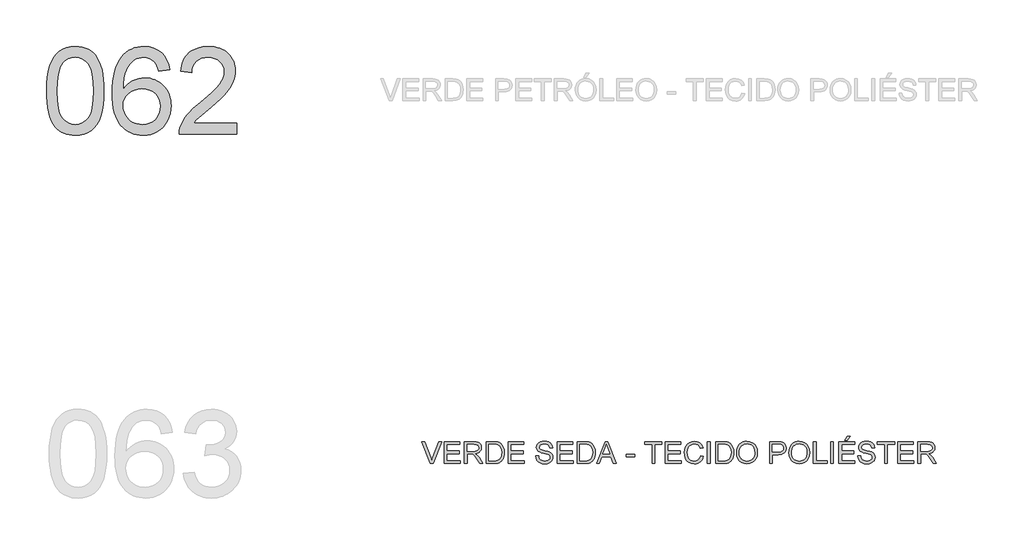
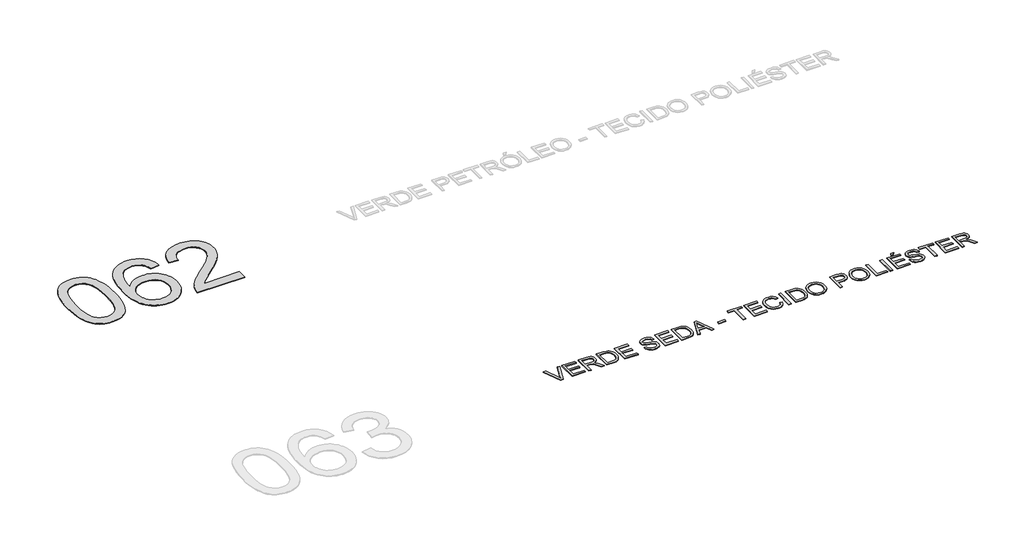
# One storey, part 14 of 35: 2 proxies.
"""IFC4 building model written with IfcOpenShell, lengths in millimetres."""

import ifcopenshell
import ifcopenshell.guid

model = None  # the IFC model being written
_history = None  # IfcOwnerHistory: only IFC2X3 demands one
_inside = {}  # id of a spatial element -> (the spatial element, [elements in it])
_under = {}  # id of a project, library or spatial element -> (it, [spatial elements below it])
_declared = {}  # id of a project -> (the project, [libraries it declares])
_typed = {}  # id of a type object -> (the type object, [elements of that type])
_made_of = {}  # id of a material, layer set ... -> (it, [elements and type objects made of it])


def new_model(schema):
    """Start an empty IFC model of exactly this schema.

    Asked for "IFC4X3", IfcOpenShell would pick the latest addendum, in which some entities
    have other attributes; the version numbers below select the first issue.
    IFC2X3 requires an IfcOwnerHistory on every rooted entity: one is made here for all.
    """
    global model, _history
    if schema == "IFC4X3":
        model = ifcopenshell.file(schema_version=(4, 3, 0, 0))
    else:
        model = ifcopenshell.file(schema=schema)
    _inside.clear()
    _under.clear()
    _declared.clear()
    _typed.clear()
    _made_of.clear()
    _history = None
    if model.schema == "IFC2X3":
        org = make("IfcOrganization", Name="unknown")
        user = make(
            "IfcPersonAndOrganization",
            ThePerson=make("IfcPerson", FamilyName="unknown"),
            TheOrganization=org,
        )
        app = make(
            "IfcApplication",
            ApplicationDeveloper=org,
            Version="unknown",
            ApplicationFullName="unknown",
            ApplicationIdentifier="unknown",
        )
        _history = make(
            "IfcOwnerHistory",
            OwningUser=user,
            OwningApplication=app,
            ChangeAction="ADDED",
            CreationDate=0,
        )
    return model


def make(cls, **values):
    """One entity of the class cls with the attributes given. An attribute that is None is left unset."""
    return model.create_entity(
        cls, **{name: value for name, value in values.items() if value is not None}
    )


def rooted(cls, **values):
    """An entity with a GlobalId (a new one), such as an element, a storey or a relation."""
    return make(cls, GlobalId=ifcopenshell.guid.new(), OwnerHistory=_history, **values)


def si_unit(unit_type, name, prefix=None):
    """IfcSIUnit, for example si_unit("LENGTHUNIT", "METRE", prefix="MILLI")."""
    return make("IfcSIUnit", UnitType=unit_type, Prefix=prefix, Name=name)


def assignment(units):
    """IfcUnitAssignment: the units of a project."""
    return None if units is None else make("IfcUnitAssignment", Units=units)


def point(xyz):
    """IfcCartesianPoint."""
    return None if xyz is None else make("IfcCartesianPoint", Coordinates=xyz)


def direction(xyz):
    """IfcDirection."""
    return None if xyz is None else make("IfcDirection", DirectionRatios=xyz)


def frame(location, z_axis=None, x_axis=None):
    """IfcAxis2Placement3D, a coordinate frame: its origin and axes. An axis left out is left unset."""
    return make(
        "IfcAxis2Placement3D",
        Location=point(location),
        Axis=direction(z_axis),
        RefDirection=direction(x_axis),
    )


def origin():
    """The frame at (0, 0, 0) with its axes left unset."""
    return frame((0.0, 0.0, 0.0))


def origin_with_axes():
    """The frame at (0, 0, 0) with the z axis (0, 0, 1) and the x axis (1, 0, 0) written out."""
    return frame((0.0, 0.0, 0.0), z_axis=(0.0, 0.0, 1.0), x_axis=(1.0, 0.0, 0.0))


def place(relative_to, where):
    """IfcLocalPlacement: puts the frame where relative to a parent placement (None: the world)."""
    return make(
        "IfcLocalPlacement", PlacementRelTo=relative_to, RelativePlacement=where
    )


def context(
    kind, dimensions, precision=None, world=None, true_north=None, identifier=None
):
    """IfcGeometricRepresentationContext, for example the 3D "Model" context."""
    return make(
        "IfcGeometricRepresentationContext",
        ContextIdentifier=identifier,
        ContextType=kind,
        CoordinateSpaceDimension=dimensions,
        Precision=precision,
        WorldCoordinateSystem=world,
        TrueNorth=true_north,
    )


def project(units=None, contexts=None):
    """IfcProject with its units and contexts."""
    return rooted(
        "IfcProject",
        Name="project",
        RepresentationContexts=contexts,
        UnitsInContext=assignment(units),
    )


def spatial(cls, under=None, at=None, **own):
    """A site, building, storey or space (cls), placed at a placement, below another one or the project."""
    s = rooted(cls, ObjectPlacement=at, **own)
    if under is not None:
        _under.setdefault(under.id(), (under, []))[1].append(s)
    return s


def polyline(points):
    """IfcPolyline through the points."""
    return make("IfcPolyline", Points=[point(p) for p in points])


def outline(outer, holes=None, kind="AREA"):
    """IfcArbitraryClosedProfileDef: a profile drawn as a closed curve; with holes, ...WithVoids."""
    if holes is None:
        return make("IfcArbitraryClosedProfileDef", ProfileType=kind, OuterCurve=outer)
    return make(
        "IfcArbitraryProfileDefWithVoids",
        ProfileType=kind,
        OuterCurve=outer,
        InnerCurves=holes,
    )


def extrude(swept, where, along, depth):
    """IfcExtrudedAreaSolid: the profile swept, set in the frame where, extruded along a direction by depth."""
    return make(
        "IfcExtrudedAreaSolid",
        SweptArea=swept,
        Position=where,
        ExtrudedDirection=direction(along),
        Depth=depth,
    )


def shape(context_of_items, identifier, shape_type, items):
    """IfcShapeRepresentation: the items that make up one representation, for example the "Body"."""
    return make(
        "IfcShapeRepresentation",
        ContextOfItems=context_of_items,
        RepresentationIdentifier=identifier,
        RepresentationType=shape_type,
        Items=items,
    )


def made_of(thing, what):
    """Note that an element or type object is made of a material, layer set ...; save() writes the relation."""
    if what is not None:
        _made_of.setdefault(what.id(), (what, []))[1].append(thing)
    return thing


def element(
    cls,
    number,
    at=None,
    inside=None,
    cuts=None,
    type_object=None,
    material=None,
    context=None,
    identifier="Body",
    shape_type=None,
    held_by="IfcProductDefinitionShape",
    body=None,
    shapes=None,
    **own,
):
    """One element of the class cls, such as IfcWall. Its Tag is "e" and its number.

    at: its placement. inside: the storey or other place that contains it. cuts: it is an
    opening in that element (IfcRelVoidsElement). A single representation is given by context,
    identifier, shape_type and body (its items); several are given by shapes. held_by: the class
    of the entity that holds the representations. save() writes the other relations.
    """
    e = rooted(cls, Tag="e%d" % number, ObjectPlacement=at, **own)
    if body is not None:
        shapes = [shape(context, identifier, shape_type, body)]
    if shapes is not None:
        e.Representation = make(held_by, Representations=shapes)
    if inside is not None:
        _inside.setdefault(inside.id(), (inside, []))[1].append(e)
    if cuts is not None:
        rooted(
            "IfcRelVoidsElement", RelatingBuildingElement=cuts, RelatedOpeningElement=e
        )
    if type_object is not None:
        _typed.setdefault(type_object.id(), (type_object, []))[1].append(e)
    return made_of(e, material)


def aggregate(whole, parts):
    """IfcRelAggregates: a whole, such as a stair, and the parts it consists of."""
    return rooted("IfcRelAggregates", RelatingObject=whole, RelatedObjects=parts)


def save(model, path):
    """Write the relations noted so far, then the file.

    IfcRelAggregates (storeys below a building ...), IfcRelContainedInSpatialStructure (elements
    in a storey), IfcRelDefinesByType, IfcRelAssociatesMaterial and IfcRelDeclares: one each for
    every whole, place, type object, material and project.
    """
    for whole, parts in _under.values():
        aggregate(whole, parts)
    for where, things in _inside.values():
        rooted(
            "IfcRelContainedInSpatialStructure",
            RelatedElements=things,
            RelatingStructure=where,
        )
    for kind, things in _typed.values():
        rooted("IfcRelDefinesByType", RelatedObjects=things, RelatingType=kind)
    for what, things in _made_of.values():
        rooted("IfcRelAssociatesMaterial", RelatedObjects=things, RelatingMaterial=what)
    for by, libraries in _declared.values():
        rooted("IfcRelDeclares", RelatingContext=by, RelatedDefinitions=libraries)
    model.write(path)


model = new_model("IFC4")

# Units and contexts
model_context = context("Model", 3, world=origin())
ifc_project = project(units=[si_unit("LENGTHUNIT", "METRE", prefix="MILLI")], contexts=[model_context])

# Site, building, storey
site = spatial("IfcSite", under=ifc_project)
building = spatial("IfcBuilding", under=site)
storey = spatial("IfcBuildingStorey", under=building, Name="Marelli - Linha YOU - Planta Baixa", Elevation=0.0)

# Proxies
placement = place(None, origin())
element("IfcBuildingElementProxy", 1, Name="1200mm Arial", ObjectType="1200mm Arial", at=placement, inside=storey, context=model_context, shape_type="SweptSolid", body=[
    extrude(outline(polyline([(-25312.9802863, -69895.792664), (-25310.2119743, -69794.4319773), (-25301.9070382, -69702.8385576), (-25288.0654782, -69621.0124048), (-25268.6872941, -69548.953519), (-25243.8552594, -69486.073289), (-25213.6521476, -69431.7831035), (-25178.0779586, -69386.0829627), (-25137.1326926, -69348.9728664), (-25090.6783936, -69320.2596767), (-25038.5771061, -69299.7502555), (-24980.8288299, -69287.4446027), (-24917.4335651, -69283.3427185), (-24869.7928467, -69285.7707396), (-24824.5801495, -69293.0548031), (-24781.7954734, -69305.194909), (-24741.4388186, -69322.1910572), (-24704.4850722, -69343.7581391), (-24671.9091215, -69369.6110463), (-24643.7109665, -69399.7497788), (-24619.8906074, -69434.1743365), (-24599.2524274, -69472.7467637), (-24580.6008103, -69515.3291046), (-24549.2572643, -69612.5235278), (-24537.2827053, -69669.6831928), (-24528.729449, -69735.9479371), (-24523.5974951, -69811.3177609), (-24521.8868438, -69895.792664), (-24524.6275647, -69996.5095573), (-24532.8497273, -70087.6431245), (-24546.5533316, -70169.1933658), (-24565.7383777, -70241.1602811), (-24590.3772743, -70304.0681023), (-24620.4424304, -70358.4410612), (-24655.9338458, -70404.2791578), (-24696.8515208, -70441.5823921), (-24743.361002, -70470.4887199), (-24795.6278365, -70491.1360968), (-24853.6520241, -70503.524523), (-24917.4335651, -70507.6539984), (-24960.1078765, -70505.8605737), (-25000.4277432, -70500.4802995), (-25038.3931651, -70491.5131759), (-25074.0041422, -70478.9592028), (-25107.2606746, -70462.8183803), (-25138.1627622, -70443.0907083), (-25166.710405, -70419.7761868), (-25192.903603, -70392.8748159), (-25221.0465757, -70350.2786794), (-25245.437152, -70302.0999336), (-25266.0753319, -70248.3385785), (-25282.9611155, -70188.9946142), (-25296.0945027, -70124.0680406), (-25305.4754936, -70053.5588577), (-25311.1040881, -69977.4670655), (-25312.9802863, -69895.792664)]), holes=[polyline([(-25162.2958211, -69895.4983584), (-25157.8812371, -70026.4919399), (-25144.6374853, -70132.5247279), (-25134.7046714, -70176.1808245), (-25122.5645656, -70213.5967226), (-25108.2171678, -70244.7724225), (-25091.662478, -70269.7079239), (-25054.2856673, -70307.884878), (-25012.7885782, -70335.1541309), (-24967.1712108, -70351.5156826), (-24917.4335651, -70356.9695332), (-24867.6959193, -70351.4972885), (-24822.0785519, -70335.0805545), (-24780.5814629, -70307.7193311), (-24743.2046521, -70269.4136183), (-24726.6499624, -70244.418336), (-24712.3025646, -70213.2104465), (-24700.1624587, -70175.7899498), (-24690.2296448, -70132.1568459), (-24676.985893, -70026.2528166), (-24672.5713091, -69895.4983584), (-24676.8387402, -69767.9720648), (-24689.6410336, -69663.8062779), (-24699.2427537, -69620.4835744), (-24710.9781894, -69583.0009976), (-24724.8473406, -69551.3585475), (-24740.8502074, -69525.5562241), (-24777.6016187, -69485.5122689), (-24819.5769543, -69456.9094438), (-24866.7762143, -69439.7477487), (-24919.1993986, -69434.0271837), (-24968.679527, -69439.067167), (-25013.5243422, -69454.187117), (-25053.7338443, -69479.3870337), (-25089.3080332, -69514.666917), (-25106.414546, -69543.2145599), (-25121.2401904, -69577.2068562), (-25133.7849664, -69616.6438061), (-25144.0488741, -69661.5254095), (-25157.7340843, -69767.6225769), (-25162.2958211, -69895.4983584)])]), origin_with_axes(), (0.0, 0.0, 1.0), 10.0),
    extrude(outline(polyline([(-23617.7800525, -69603.5472071), (-23768.4645177, -69622.3827652), (-23779.5377658, -69582.0812927), (-23792.7447294, -69547.7027202), (-23808.0854086, -69519.2470479), (-23825.5598034, -69496.7142757), (-23857.9518131, -69469.2886729), (-23893.9122781, -69449.6989567), (-23933.4411985, -69437.9451269), (-23976.5385742, -69434.0271837), (-24012.0759749, -69436.3080521), (-24046.5833061, -69443.1506572), (-24080.0605676, -69454.554999), (-24112.5077596, -69470.5210776), (-24142.1130632, -69496.6315022), (-24169.1247987, -69528.1681863), (-24193.5429661, -69565.1311297), (-24215.3675655, -69607.5203326), (-24233.4397685, -69658.1316981), (-24246.6007469, -69719.7611293), (-24254.8505006, -69792.4086263), (-24258.1890297, -69876.0741891), (-24229.4666429, -69838.2099347), (-24197.7460179, -69805.5512106), (-24163.0271546, -69778.0980167), (-24125.310053, -69755.8503531), (-24085.6063887, -69738.6610669), (-24044.9278371, -69726.3830053), (-24003.2743982, -69719.0161683), (-23960.646072, -69716.560556), (-23923.7475079, -69718.2390176), (-23888.2468954, -69723.2744024), (-23854.1442344, -69731.6667104), (-23821.439525, -69743.4159416), (-23790.1327672, -69758.5220961), (-23760.223961, -69776.9851737), (-23731.7131064, -69798.8051745), (-23704.6002034, -69823.9820986), (-23679.8371466, -69851.81697), (-23658.3758307, -69881.6108131), (-23640.2162557, -69913.3636278), (-23625.3584216, -69947.0754142), (-23613.8023284, -69982.7461721), (-23605.5479762, -70020.3759017), (-23600.5953648, -70059.9646029), (-23598.9444943, -70101.5122757), (-23602.0530972, -70156.4462547), (-23611.3789058, -70209.4120649), (-23626.9219201, -70260.4097065), (-23648.6821401, -70309.4391794), (-23675.8870136, -70354.6702707), (-23707.7639885, -70394.2727675), (-23744.3130647, -70428.2466698), (-23785.5342423, -70456.5919775), (-23830.5446044, -70478.9316116), (-23878.4612343, -70494.8884932), (-23929.2841319, -70504.4626221), (-23983.0132973, -70507.6539984), (-24029.0146415, -70505.5386769), (-24072.8408835, -70499.1927125), (-24114.4920231, -70488.6161052), (-24153.9680605, -70473.8088549), (-24191.2689955, -70454.7709616), (-24226.3948283, -70431.5024254), (-24259.3455587, -70404.0032463), (-24290.1211869, -70372.2734242), (-24317.9537591, -70335.6875598), (-24342.0753217, -70293.6202536), (-24362.4858746, -70246.0715057), (-24379.1854179, -70193.0413161), (-24392.1739516, -70134.5296848), (-24401.4514757, -70070.5366117), (-24407.0179901, -70001.062097), (-24408.8734949, -69926.1061404), (-24406.8133558, -69842.1784618), (-24400.6329382, -69764.1828803), (-24390.3322424, -69692.1193959), (-24375.9112682, -69625.9880088), (-24357.3700156, -69565.7887188), (-24334.7084847, -69511.521526), (-24307.9266755, -69463.1864303), (-24277.0245879, -69420.7834319), (-24247.0100156, -69388.5707647), (-24214.5030428, -69360.6531198), (-24179.5036695, -69337.0304971), (-24142.0118956, -69317.7028968), (-24102.0277213, -69302.6703188), (-24059.5511464, -69291.9327631), (-24014.582171, -69285.4902296), (-23967.1207951, -69283.3427185), (-23897.7198567, -69288.6586133), (-23834.9040061, -69304.6062978), (-23778.6732431, -69331.1857719), (-23729.0275678, -69368.3970358), (-23687.3097496, -69414.9892904), (-23654.8625576, -69469.7117372), (-23631.6859919, -69532.5643761), (-23617.7800525, -69603.5472071)]), holes=[polyline([(-24258.1890297, -70099.157831), (-24256.0093289, -70132.9202011), (-24249.4702264, -70165.9284131), (-24238.5717223, -70198.182467), (-24223.3138166, -70229.6823629), (-24204.4414702, -70258.9473756), (-24182.6996443, -70284.4967801), (-24158.0883388, -70306.3305766), (-24130.6075538, -70324.4487648), (-24100.4320331, -70338.676601), (-24067.7365208, -70348.8393411), (-24032.5210168, -70354.9369852), (-23994.7855212, -70356.9695332), (-23942.4083221, -70352.7572843), (-23895.3470179, -70340.1205378), (-23853.6016085, -70319.0592936), (-23817.1720939, -70289.5735517), (-23787.6219726, -70252.8589286), (-23766.5147432, -70210.1110407), (-23753.8504055, -70161.3298882), (-23749.6289596, -70106.5154709), (-23753.7952232, -70053.8439662), (-23766.294014, -70007.0769676), (-23787.1253319, -69966.214475), (-23816.2891771, -69931.2564884), (-23852.8290563, -69903.2514715), (-23895.7884763, -69883.247888), (-23945.1674371, -69871.2457379), (-24000.9659387, -69867.2450212), (-24052.6441619, -69871.2457379), (-24100.2572892, -69883.247888), (-24143.8053204, -69903.2514715), (-24183.2882555, -69931.2564884), (-24216.0573442, -69965.7546225), (-24239.4638361, -70005.2375576), (-24253.5077313, -70049.7052938), (-24258.1890297, -70099.157831)])]), origin_with_axes(), (0.0, 0.0, 1.0), 10.0),
    extrude(outline(polyline([(-22694.837703, -70338.133975), (-22694.837703, -70488.8184403), (-23485.9311454, -70488.8184403), (-23482.6202075, -70435.7698566), (-23469.7443376, -70384.9285648), (-23453.3184066, -70344.029284), (-23432.5882561, -70303.7370085), (-23407.5538864, -70264.0517383), (-23378.2152972, -70224.9734733), (-23342.8066552, -70184.9755034), (-23299.5621267, -70142.5311182), (-23189.5654101, -70050.303102), (-23100.1332971, -69973.3605827), (-23026.9615682, -69905.8726307), (-22970.0502236, -69847.839246), (-22929.3992631, -69799.2604285), (-22900.9435908, -69755.7032003), (-22880.6181106, -69712.7345832), (-22868.4228224, -69670.3545774), (-22864.3577264, -69628.5631827), (-22868.1928962, -69589.2457945), (-22879.6984056, -69553.1105855), (-22898.8742546, -69520.1575558), (-22925.7204432, -69490.3867054), (-22958.7470493, -69465.7294146), (-22996.4641508, -69448.1170641), (-23038.8717478, -69437.5496538), (-23085.9698403, -69434.0271837), (-23135.5879244, -69437.4668803), (-23179.96369, -69447.7859703), (-23219.0971373, -69464.9844536), (-23252.9882661, -69489.0623302), (-23280.4046718, -69519.2102597), (-23300.1139497, -69554.6189017), (-23312.1160998, -69595.2882563), (-23316.4111221, -69641.2183234), (-23467.0955873, -69622.3827652), (-23454.136944, -69544.5941173), (-23443.677599, -69509.3832119), (-23430.5649052, -69476.6279187), (-23414.7988624, -69446.3282379), (-23396.3794708, -69418.4841694), (-23375.3067302, -69393.0957132), (-23351.5806408, -69370.1628693), (-23325.4587199, -69349.8143965), (-23297.1984849, -69332.1790533), (-23266.7999357, -69317.2568399), (-23234.2630725, -69305.0477562), (-23162.7744038, -69288.7689779), (-23082.7324787, -69283.3427185), (-23001.9731837, -69289.3759832), (-22964.9251675, -69296.9175641), (-22930.0982389, -69307.4757774), (-22897.4923978, -69321.050623), (-22867.1076443, -69337.642101), (-22838.9439783, -69357.2502113), (-22813.0013999, -69379.874954), (-22789.7213673, -69404.7345798), (-22769.5453392, -69431.0473395), (-22752.4733153, -69458.8132331), (-22738.5052958, -69488.0322606), (-22727.6412807, -69518.7044219), (-22719.8812698, -69550.8297172), (-22715.2252633, -69584.4081463), (-22713.6732612, -69619.4397093), (-22715.3471242, -69655.6301005), (-22720.3687135, -69691.5077921), (-22728.7380289, -69727.072784), (-22740.4550704, -69762.3250762), (-22756.062464, -69797.880871), (-22776.1028357, -69834.3563708), (-22829.4825132, -69910.0664855), (-22866.316698, -69952.0510182), (-22914.5736187, -70000.4550917), (-23045.355668, -70116.5218611), (-23218.7016641, -70261.4673672), (-23256.299204, -70299.6903065), (-23286.6862568, -70338.133975), (-22694.837703, -70338.133975)])), origin_with_axes(), (0.0, 0.0, 1.0), 10.0),
])
element("IfcBuildingElementProxy", 2, Name="300mm Arial", ObjectType="300mm Arial", at=placement, inside=storey, context=model_context, shape_type="SweptSolid", body=[
    extrude(outline(polyline([(-20026.5998277, -75030.5663201), (-20146.5293581, -74729.1973896), (-20106.2094914, -74729.1973896), (-20025.9376401, -74946.3213432), (-20009.6772559, -74995.2496485), (-19993.6376009, -74946.3213432), (-19913.1450203, -74729.1973896), (-19872.8251537, -74729.1973896), (-19987.6779126, -75030.5663201), (-20026.5998277, -75030.5663201)])), origin_with_axes(), (0.0, 0.0, 1.0), 10.0),
    extrude(outline(polyline([(-19837.8027877, -75030.5663201), (-19837.8027877, -74729.1973896), (-19621.193869, -74729.1973896), (-19621.193869, -74766.8685059), (-19800.1316714, -74766.8685059), (-19800.1316714, -74856.3374072), (-19630.611648, -74856.3374072), (-19630.611648, -74894.0085235), (-19800.1316714, -74894.0085235), (-19800.1316714, -74992.8952038), (-19616.4849794, -74992.8952038), (-19616.4849794, -75030.5663201), (-19837.8027877, -75030.5663201)])), origin_with_axes(), (0.0, 0.0, 1.0), 10.0),
    extrude(outline(polyline([(-19559.978305, -75030.5663201), (-19559.978305, -74729.1973896), (-19430.1159607, -74729.1973896), (-19395.2131564, -74731.2299376), (-19369.8201017, -74737.3275817), (-19351.260455, -74748.5847708), (-19336.8578749, -74766.0959537), (-19327.6148398, -74787.8101885), (-19324.5338281, -74811.6765329), (-19329.6381907, -74841.3646099), (-19344.9512788, -74865.9759154), (-19356.551058, -74876.0052983), (-19370.9329447, -74884.0205273), (-19408.043041, -74894.0085235), (-19386.6323088, -74910.1217548), (-19356.0981032, -74948.8965171), (-19305.8454227, -75030.5663201), (-19349.6233801, -75030.5663201), (-19388.8396008, -74968.0999573), (-19417.1665144, -74926.750021), (-19437.0689304, -74907.2154871), (-19454.9847835, -74900.0417882), (-19476.8369741, -74898.717413), (-19522.3071887, -74898.717413), (-19522.3071887, -75030.5663201), (-19559.978305, -75030.5663201)]), holes=[polyline([(-19522.3071887, -74861.0462967), (-19437.9886354, -74861.0462967), (-19413.772803, -74859.7127245), (-19394.9832301, -74855.7120078), (-19380.8381674, -74848.7774322), (-19370.5558657, -74838.6422832), (-19364.2926747, -74826.3826157), (-19362.2049444, -74813.0744845), (-19366.187267, -74794.6987789), (-19378.1342348, -74779.8915286), (-19398.6896412, -74770.1242616), (-19428.4972799, -74766.8685059), (-19522.3071887, -74766.8685059), (-19522.3071887, -74861.0462967)])]), origin_with_axes(), (0.0, 0.0, 1.0), 10.0),
    extrude(outline(polyline([(-19258.6093745, -75030.5663201), (-19258.6093745, -74729.1973896), (-19154.6459227, -74729.1973896), (-19100.861575, -74733.5383972), (-19076.8388807, -74741.9077126), (-19056.5685828, -74755.0962821), (-19035.7280677, -74778.0521186), (-19020.8840292, -74806.5997614), (-19011.9996791, -74840.1873876), (-19009.038229, -74878.2631741), (-19011.0431859, -74910.6091985), (-19017.0580565, -74939.0740679), (-19026.2183182, -74963.3082943), (-19037.6594482, -74982.9623899), (-19050.8296236, -74998.477813), (-19065.1770215, -75010.2960221), (-19081.6489378, -75019.0608107), (-19101.1926688, -75025.4159721), (-19149.6427276, -75030.5663201), (-19258.6093745, -75030.5663201)]), holes=[polyline([(-19220.9382582, -74992.8952038), (-19154.2780407, -74992.8952038), (-19126.7052852, -74991.5340404), (-19105.7911937, -74987.4505502), (-19090.0090561, -74980.8838566), (-19077.8321621, -74972.0730828), (-19064.7447601, -74955.7667134), (-19054.9131138, -74934.6594839), (-19048.7602874, -74908.6594239), (-19046.7093453, -74877.6745629), (-19050.7284561, -74836.6189322), (-19062.7857885, -74806.3054558), (-19080.6004741, -74785.4833349), (-19101.8916446, -74772.9017706), (-19123.5598941, -74768.3768221), (-19155.3081103, -74766.8685059), (-19220.9382582, -74766.8685059), (-19220.9382582, -74992.8952038)])]), origin_with_axes(), (0.0, 0.0, 1.0), 10.0),
    extrude(outline(polyline([(-18957.2404441, -75030.5663201), (-18957.2404441, -74729.1973896), (-18740.6315253, -74729.1973896), (-18740.6315253, -74766.8685059), (-18919.5693278, -74766.8685059), (-18919.5693278, -74856.3374072), (-18750.0493044, -74856.3374072), (-18750.0493044, -74894.0085235), (-18919.5693278, -74894.0085235), (-18919.5693278, -74992.8952038), (-18735.9226358, -74992.8952038), (-18735.9226358, -75030.5663201), (-18957.2404441, -75030.5663201)])), origin_with_axes(), (0.0, 0.0, 1.0), 10.0),
    extrude(outline(polyline([(-18575.8203915, -74926.9707502), (-18538.1492752, -74926.9707502), (-18533.8266617, -74947.8756446), (-18526.0091693, -74964.6786547), (-18513.8138812, -74978.0143771), (-18496.3578805, -74988.517408), (-18475.0207248, -74995.332422), (-18451.1819715, -74997.6040933), (-18430.1943037, -74995.884245), (-18411.818598, -74990.7247), (-18396.9285743, -74982.5577197), (-18386.3979522, -74971.8155654), (-18380.1347612, -74959.4823215), (-18378.0470309, -74946.5420724), (-18379.6105293, -74933.932917), (-18384.3010248, -74923.0344129), (-18393.8291685, -74913.7361954), (-18409.9056116, -74905.9279001), (-18464.7568171, -74891.5437141), (-18500.7632674, -74882.0247675), (-18523.8018774, -74872.9656733), (-18542.5546621, -74860.2921386), (-18555.8443991, -74844.9330653), (-18563.7630591, -74827.2195472), (-18566.4026124, -74807.4826782), (-18563.1376597, -74785.4189555), (-18553.3428016, -74764.845155), (-18537.2755554, -74747.4075484), (-18515.1934387, -74734.7524077), (-18488.6875409, -74727.054477), (-18459.3489518, -74724.4885001), (-18427.5639474, -74727.1740386), (-18399.7520686, -74735.2306543), (-18376.9065967, -74748.4928003), (-18360.0208131, -74766.7949295), (-18349.3338411, -74788.9966079), (-18345.0848041, -74813.9574013), (-18382.7559204, -74813.9574013), (-18389.6721019, -74791.4798114), (-18404.0930761, -74775.2562154), (-18426.6258483, -74765.4337661), (-18457.8774238, -74762.1596164), (-18489.8647633, -74765.3969779), (-18511.8089243, -74775.1090626), (-18524.5008531, -74789.4012781), (-18528.7314961, -74806.3790322), (-18525.7332578, -74820.8551887), (-18516.738543, -74832.4986539), (-18495.4749637, -74842.9097143), (-18455.2286735, -74853.541504), (-18413.6947962, -74863.6398648), (-18388.5684559, -74872.4506385), (-18367.0933445, -74886.1174547), (-18352.1113502, -74902.9848441), (-18343.3097735, -74922.868866), (-18340.3759146, -74945.5855792), (-18343.7512319, -74968.8081301), (-18353.8771838, -74990.6511236), (-18370.3399031, -75009.4498935), (-18392.7255225, -75023.539774), (-18419.6452875, -75032.3413507), (-18449.7104435, -75035.2752096), (-18486.6182047, -75032.1114244), (-18516.9960604, -75022.620069), (-18541.1934987, -75006.764355), (-18559.5600073, -74984.5074943), (-18571.3506252, -74957.3945912), (-18575.8203915, -74926.9707502)])), origin_with_axes(), (0.0, 0.0, 1.0), 10.0),
    extrude(outline(polyline([(-18283.8692401, -75030.5663201), (-18283.8692401, -74729.1973896), (-18067.2603213, -74729.1973896), (-18067.2603213, -74766.8685059), (-18246.1981238, -74766.8685059), (-18246.1981238, -74856.3374072), (-18076.6781004, -74856.3374072), (-18076.6781004, -74894.0085235), (-18246.1981238, -74894.0085235), (-18246.1981238, -74992.8952038), (-18062.5514318, -74992.8952038), (-18062.5514318, -75030.5663201), (-18283.8692401, -75030.5663201)])), origin_with_axes(), (0.0, 0.0, 1.0), 10.0),
    extrude(outline(polyline([(-18006.0447573, -75030.5663201), (-18006.0447573, -74729.1973896), (-17902.0813055, -74729.1973896), (-17848.2969578, -74733.5383972), (-17824.2742635, -74741.9077126), (-17804.0039656, -74755.0962821), (-17783.1634506, -74778.0521186), (-17768.3194121, -74806.5997614), (-17759.4350619, -74840.1873876), (-17756.4736118, -74878.2631741), (-17758.4785687, -74910.6091985), (-17764.4934393, -74939.0740679), (-17773.653701, -74963.3082943), (-17785.094831, -74982.9623899), (-17798.2650065, -74998.477813), (-17812.6124043, -75010.2960221), (-17829.0843206, -75019.0608107), (-17848.6280516, -75025.4159721), (-17897.0781104, -75030.5663201), (-18006.0447573, -75030.5663201)]), holes=[polyline([(-17968.373641, -74992.8952038), (-17901.7134235, -74992.8952038), (-17874.140668, -74991.5340404), (-17853.2265765, -74987.4505502), (-17837.444439, -74980.8838566), (-17825.2675449, -74972.0730828), (-17812.1801429, -74955.7667134), (-17802.3484966, -74934.6594839), (-17796.1956702, -74908.6594239), (-17794.1447281, -74877.6745629), (-17798.1638389, -74836.6189322), (-17810.2211713, -74806.3054558), (-17828.0358569, -74785.4833349), (-17849.3270274, -74772.9017706), (-17870.9952769, -74768.3768221), (-17902.7434931, -74766.8685059), (-17968.373641, -74766.8685059), (-17968.373641, -74992.8952038)])]), origin_with_axes(), (0.0, 0.0, 1.0), 10.0),
    extrude(outline(polyline([(-17739.7717692, -75030.5663201), (-17619.4743568, -74729.1973896), (-17587.3950468, -74729.1973896), (-17467.0976344, -75030.5663201), (-17506.9024663, -75030.5663201), (-17541.4097974, -74936.3885293), (-17665.5331826, -74936.3885293), (-17699.9669374, -75030.5663201), (-17739.7717692, -75030.5663201)]), holes=[polyline([(-17651.7008196, -74898.717413), (-17555.1685841, -74898.717413), (-17582.3182753, -74824.6259792), (-17603.4347018, -74766.8685059), (-17622.1966836, -74818.1512561), (-17651.7008196, -74898.717413)])]), origin_with_axes(), (0.0, 0.0, 1.0), 10.0),
    extrude(outline(polyline([(-17332.6735534, -74941.0974188), (-17332.6735534, -74903.4263025), (-17214.9513149, -74903.4263025), (-17214.9513149, -74941.0974188), (-17332.6735534, -74941.0974188)])), origin_with_axes(), (0.0, 0.0, 1.0), 10.0),
    extrude(outline(polyline([(-16974.7979485, -75030.5663201), (-16974.7979485, -74766.8685059), (-17073.6846288, -74766.8685059), (-17073.6846288, -74729.1973896), (-16838.2401519, -74729.1973896), (-16838.2401519, -74766.8685059), (-16937.1268322, -74766.8685059), (-16937.1268322, -75030.5663201), (-16974.7979485, -75030.5663201)])), origin_with_axes(), (0.0, 0.0, 1.0), 10.0),
    extrude(outline(polyline([(-16795.860146, -75030.5663201), (-16795.860146, -74729.1973896), (-16579.2512273, -74729.1973896), (-16579.2512273, -74766.8685059), (-16758.1890297, -74766.8685059), (-16758.1890297, -74856.3374072), (-16588.6690063, -74856.3374072), (-16588.6690063, -74894.0085235), (-16758.1890297, -74894.0085235), (-16758.1890297, -74992.8952038), (-16574.5423377, -74992.8952038), (-16574.5423377, -75030.5663201), (-16795.860146, -75030.5663201)])), origin_with_axes(), (0.0, 0.0, 1.0), 10.0),
    extrude(outline(polyline([(-16306.135634, -74923.4390831), (-16268.4645177, -74933.1511677), (-16275.9187267, -74956.5783531), (-16285.846942, -74977.0486868), (-16298.2491638, -74994.5621691), (-16313.1253919, -75009.1187997), (-16330.1399342, -75020.5622291), (-16348.9570983, -75028.7361071), (-16369.5768841, -75033.640434), (-16391.9992917, -75035.2752096), (-16435.6944757, -75030.3271968), (-16470.3949449, -75015.4831583), (-16496.9928131, -74991.2581289), (-16516.3801943, -74958.1671434), (-16528.2167975, -74919.2636224), (-16532.1623319, -74877.6009865), (-16527.7017627, -74833.6574821), (-16514.3200551, -74795.7104543), (-16492.7161849, -74764.9647166), (-16463.589128, -74742.6250824), (-16429.0450086, -74729.0226457), (-16391.1899513, -74724.4885001), (-16349.8860003, -74730.3562179), (-16331.9172641, -74737.6908652), (-16315.7373541, -74747.9593714), (-16301.6129848, -74760.8904235), (-16289.8108705, -74776.2127086), (-16273.1734073, -74814.0309777), (-16310.8445236, -74823.0072984), (-16323.9043344, -74795.5357104), (-16341.7466112, -74776.6909552), (-16364.5920831, -74765.7924511), (-16392.6614793, -74762.1596164), (-16425.0167008, -74766.1879242), (-16451.5961749, -74778.2728478), (-16471.7653053, -74797.1451941), (-16484.8894955, -74821.5357704), (-16492.0907855, -74849.1085259), (-16494.4912156, -74877.5274101), (-16491.6493271, -74912.3290468), (-16483.1236619, -74942.421794), (-16468.5923231, -74966.6560205), (-16447.733414, -74983.8820949), (-16422.7266354, -74994.1735937), (-16395.7516881, -74997.6040933), (-16364.3069745, -74992.931992), (-16338.1045794, -74978.9156879), (-16318.3217251, -74955.702334), (-16306.135634, -74923.4390831)])), origin_with_axes(), (0.0, 0.0, 1.0), 10.0),
    extrude(outline(polyline([(-16211.9578433, -75030.5663201), (-16211.9578433, -74729.1973896), (-16174.286727, -74729.1973896), (-16174.286727, -75030.5663201), (-16211.9578433, -75030.5663201)])), origin_with_axes(), (0.0, 0.0, 1.0), 10.0),
    extrude(outline(polyline([(-16098.9444943, -75030.5663201), (-16098.9444943, -74729.1973896), (-15994.9810425, -74729.1973896), (-15941.1966948, -74733.5383972), (-15917.1740005, -74741.9077126), (-15896.9037026, -74755.0962821), (-15876.0631876, -74778.0521186), (-15861.2191491, -74806.5997614), (-15852.3347989, -74840.1873876), (-15849.3733488, -74878.2631741), (-15851.3783057, -74910.6091985), (-15857.3931763, -74939.0740679), (-15866.553438, -74963.3082943), (-15877.994568, -74982.9623899), (-15891.1647435, -74998.477813), (-15905.5121413, -75010.2960221), (-15921.9840576, -75019.0608107), (-15941.5277886, -75025.4159721), (-15989.9778474, -75030.5663201), (-16098.9444943, -75030.5663201)]), holes=[polyline([(-16061.273378, -74992.8952038), (-15994.6131605, -74992.8952038), (-15967.040405, -74991.5340404), (-15946.1263136, -74987.4505502), (-15930.344176, -74980.8838566), (-15918.1672819, -74972.0730828), (-15905.0798799, -74955.7667134), (-15895.2482336, -74934.6594839), (-15889.0954072, -74908.6594239), (-15887.0444651, -74877.6745629), (-15891.0635759, -74836.6189322), (-15903.1209083, -74806.3054558), (-15920.9355939, -74785.4833349), (-15942.2267644, -74772.9017706), (-15963.8950139, -74768.3768221), (-15995.6432301, -74766.8685059), (-16061.273378, -74766.8685059), (-16061.273378, -74992.8952038)])]), origin_with_axes(), (0.0, 0.0, 1.0), 10.0),
    extrude(outline(polyline([(-15811.7022325, -74883.8549804), (-15809.1914379, -74848.5061192), (-15801.659054, -74817.213157), (-15789.105081, -74789.9760937), (-15771.5295186, -74766.7949295), (-15749.9854293, -74748.2858666), (-15725.5258751, -74735.0651074), (-15698.1508562, -74727.1326519), (-15667.8603724, -74724.4885001), (-15628.331452, -74729.454907), (-15592.8860218, -74744.3541278), (-15563.4554622, -74768.1376988), (-15541.9711536, -74799.7571563), (-15528.8377664, -74837.68579), (-15524.4599707, -74880.3968896), (-15529.0676927, -74923.6782064), (-15542.8908586, -74962.140269), (-15565.1661134, -74993.8149087), (-15595.130102, -75016.733957), (-15630.2720295, -75030.6398965), (-15668.0811016, -75035.2752096), (-15708.2170273, -75030.1524528), (-15743.8647926, -75014.7841825), (-15773.2217758, -74990.5591531), (-15794.4853551, -74958.8661192), (-15807.3980132, -74922.3998164), (-15811.7022325, -74883.8549804)]), holes=[polyline([(-15774.0311162, -74884.2228624), (-15772.1480202, -74909.1974513), (-15766.4987324, -74931.3669401), (-15757.0832525, -74950.7313286), (-15743.9015808, -74967.2906169), (-15727.8780207, -74980.5527628), (-15709.9368756, -74990.0257242), (-15690.0781456, -74995.709501), (-15668.3018308, -74997.6040933), (-15646.1530354, -74995.6911069), (-15626.0597807, -74989.9521478), (-15608.0220666, -74980.3872159), (-15592.0398932, -74966.9963113), (-15578.9547905, -74950.0875351), (-15569.6082885, -74929.9689885), (-15564.0003874, -74906.6406715), (-15562.131087, -74880.102584), (-15565.3316603, -74846.7540812), (-15574.9333804, -74817.9305269), (-15590.6879269, -74794.358488), (-15612.3469793, -74776.7645316), (-15638.475798, -74765.8108452), (-15667.6396432, -74762.1596164), (-15688.6595007, -74763.9185522), (-15708.161845, -74769.1953595), (-15726.146676, -74777.9900385), (-15742.6139938, -74790.302589), (-15756.3589849, -74806.7262208), (-15766.1768356, -74827.8541437), (-15772.0675461, -74853.6863575), (-15774.0311162, -74884.2228624)])]), origin_with_axes(), (0.0, 0.0, 1.0), 10.0),
    extrude(outline(polyline([(-15354.9399473, -75030.5663201), (-15354.9399473, -74729.1973896), (-15243.2509736, -74729.1973896), (-15198.2222174, -74732.0668692), (-15178.1450575, -74737.4287493), (-15161.6179588, -74746.1567496), (-15148.3098277, -74758.6463433), (-15137.8895701, -74775.2930036), (-15131.1573296, -74794.9287051), (-15128.9132495, -74816.3854225), (-15130.4284634, -74834.8852883), (-15134.9741053, -74851.9044291), (-15142.5501752, -74867.4428449), (-15153.1566729, -74881.5005356), (-15167.7179022, -74893.1531978), (-15187.1581664, -74901.476528), (-15211.4774655, -74906.470526), (-15240.6757996, -74908.1351921), (-15317.268831, -74908.1351921), (-15317.268831, -75030.5663201), (-15354.9399473, -75030.5663201)]), holes=[polyline([(-15317.268831, -74870.4640758), (-15238.4685076, -74870.4640758), (-15205.0648225, -74867.005985), (-15182.9919028, -74856.6317127), (-15170.68625, -74839.9850525), (-15166.5843658, -74817.7097977), (-15169.0031899, -74800.7872259), (-15176.2596622, -74786.5134045), (-15187.4524719, -74775.7712502), (-15201.6803081, -74769.4436799), (-15239.3514244, -74766.8685059), (-15317.268831, -74766.8685059), (-15317.268831, -74870.4640758)])]), origin_with_axes(), (0.0, 0.0, 1.0), 10.0),
    extrude(outline(polyline([(-15091.2421332, -74883.8549804), (-15088.7313385, -74848.5061192), (-15081.1989547, -74817.213157), (-15068.6449816, -74789.9760937), (-15051.0694193, -74766.7949295), (-15029.5253299, -74748.2858666), (-15005.0657758, -74735.0651074), (-14977.6907568, -74727.1326519), (-14947.400273, -74724.4885001), (-14907.8713527, -74729.454907), (-14872.4259224, -74744.3541278), (-14842.9953628, -74768.1376988), (-14821.5110543, -74799.7571563), (-14808.3776671, -74837.68579), (-14803.9998713, -74880.3968896), (-14808.6075933, -74923.6782064), (-14822.4307593, -74962.140269), (-14844.7060141, -74993.8149087), (-14874.6700026, -75016.733957), (-14909.8119302, -75030.6398965), (-14947.6210022, -75035.2752096), (-14987.7569279, -75030.1524528), (-15023.4046932, -75014.7841825), (-15052.7616765, -74990.5591531), (-15074.0252558, -74958.8661192), (-15086.9379138, -74922.3998164), (-15091.2421332, -74883.8549804)]), holes=[polyline([(-15053.5710169, -74884.2228624), (-15051.6879209, -74909.1974513), (-15046.038633, -74931.3669401), (-15036.6231532, -74950.7313286), (-15023.4414814, -74967.2906169), (-15007.4179213, -74980.5527628), (-14989.4767762, -74990.0257242), (-14969.6180463, -74995.709501), (-14947.8417314, -74997.6040933), (-14925.6929361, -74995.6911069), (-14905.5996813, -74989.9521478), (-14887.5619673, -74980.3872159), (-14871.5797938, -74966.9963113), (-14858.4946911, -74950.0875351), (-14849.1481892, -74929.9689885), (-14843.540288, -74906.6406715), (-14841.6709876, -74880.102584), (-14844.871561, -74846.7540812), (-14854.4732811, -74817.9305269), (-14870.2278275, -74794.358488), (-14891.88688, -74776.7645316), (-14918.0156987, -74765.8108452), (-14947.1795438, -74762.1596164), (-14968.1994013, -74763.9185522), (-14987.7017456, -74769.1953595), (-15005.6865767, -74777.9900385), (-15022.1538945, -74790.302589), (-15035.8988855, -74806.7262208), (-15045.7167363, -74827.8541437), (-15051.6074467, -74853.6863575), (-15053.5710169, -74884.2228624)])]), origin_with_axes(), (0.0, 0.0, 1.0), 10.0),
    extrude(outline(polyline([(-14752.2020864, -75030.5663201), (-14752.2020864, -74729.1973896), (-14714.5309701, -74729.1973896), (-14714.5309701, -74992.8952038), (-14563.8465049, -74992.8952038), (-14563.8465049, -75030.5663201), (-14752.2020864, -75030.5663201)])), origin_with_axes(), (0.0, 0.0, 1.0), 10.0),
    extrude(outline(polyline([(-14516.7576095, -75030.5663201), (-14516.7576095, -74729.1973896), (-14479.0864932, -74729.1973896), (-14479.0864932, -75030.5663201), (-14516.7576095, -75030.5663201)])), origin_with_axes(), (0.0, 0.0, 1.0), 10.0),
    extrude(outline(polyline([(-14403.7442606, -75030.5663201), (-14403.7442606, -74729.1973896), (-14187.1353418, -74729.1973896), (-14187.1353418, -74766.8685059), (-14366.0731443, -74766.8685059), (-14366.0731443, -74856.3374072), (-14196.5531209, -74856.3374072), (-14196.5531209, -74894.0085235), (-14366.0731443, -74894.0085235), (-14366.0731443, -74992.8952038), (-14182.4264523, -74992.8952038), (-14182.4264523, -75030.5663201), (-14403.7442606, -75030.5663201)])), origin_with_axes(), (0.0, 0.0, 1.0), 10.0),
    extrude(outline(polyline([(-14318.9842489, -74710.3618315), (-14290.7309117, -74653.855157), (-14243.6420163, -74653.855157), (-14290.7309117, -74710.3618315), (-14318.9842489, -74710.3618315)])), origin_with_axes(), (0.0, 0.0, 1.0), 10.0),
    extrude(outline(polyline([(-14140.0464464, -74926.9707502), (-14102.3753301, -74926.9707502), (-14098.0527167, -74947.8756446), (-14090.2352243, -74964.6786547), (-14078.0399361, -74978.0143771), (-14060.5839355, -74988.517408), (-14039.2467798, -74995.332422), (-14015.4080265, -74997.6040933), (-13994.4203586, -74995.884245), (-13976.044653, -74990.7247), (-13961.1546292, -74982.5577197), (-13950.6240071, -74971.8155654), (-13944.3608161, -74959.4823215), (-13942.2730858, -74946.5420724), (-13943.8365843, -74933.932917), (-13948.5270797, -74923.0344129), (-13958.0552234, -74913.7361954), (-13974.1316666, -74905.9279001), (-14028.9828721, -74891.5437141), (-14064.9893224, -74882.0247675), (-14088.0279323, -74872.9656733), (-14106.780717, -74860.2921386), (-14120.0704541, -74844.9330653), (-14127.989114, -74827.2195472), (-14130.6286674, -74807.4826782), (-14127.3637146, -74785.4189555), (-14117.5688565, -74764.845155), (-14101.5016104, -74747.4075484), (-14079.4194936, -74734.7524077), (-14052.9135959, -74727.054477), (-14023.5750068, -74724.4885001), (-13991.7900024, -74727.1740386), (-13963.9781235, -74735.2306543), (-13941.1326516, -74748.4928003), (-13924.2468681, -74766.7949295), (-13913.5598961, -74788.9966079), (-13909.3108591, -74813.9574013), (-13946.9819754, -74813.9574013), (-13953.8981569, -74791.4798114), (-13968.3191311, -74775.2562154), (-13990.8519033, -74765.4337661), (-14022.1034788, -74762.1596164), (-14054.0908183, -74765.3969779), (-14076.0349793, -74775.1090626), (-14088.7269081, -74789.4012781), (-14092.957551, -74806.3790322), (-14089.9593128, -74820.8551887), (-14080.964598, -74832.4986539), (-14059.7010187, -74842.9097143), (-14019.4547284, -74853.541504), (-13977.9208512, -74863.6398648), (-13952.7945109, -74872.4506385), (-13931.3193994, -74886.1174547), (-13916.3374052, -74902.9848441), (-13907.5358284, -74922.868866), (-13904.6019695, -74945.5855792), (-13907.9772868, -74968.8081301), (-13918.1032387, -74990.6511236), (-13934.565958, -75009.4498935), (-13956.9515774, -75023.539774), (-13983.8713424, -75032.3413507), (-14013.9364985, -75035.2752096), (-14050.8442596, -75032.1114244), (-14081.2221154, -75022.620069), (-14105.4195536, -75006.764355), (-14123.7860622, -74984.5074943), (-14135.5766802, -74957.3945912), (-14140.0464464, -74926.9707502)])), origin_with_axes(), (0.0, 0.0, 1.0), 10.0),
    extrude(outline(polyline([(-13772.7530624, -75030.5663201), (-13772.7530624, -74766.8685059), (-13871.6397427, -74766.8685059), (-13871.6397427, -74729.1973896), (-13636.1952658, -74729.1973896), (-13636.1952658, -74766.8685059), (-13735.0819461, -74766.8685059), (-13735.0819461, -75030.5663201), (-13772.7530624, -75030.5663201)])), origin_with_axes(), (0.0, 0.0, 1.0), 10.0),
    extrude(outline(polyline([(-13593.81526, -75030.5663201), (-13593.81526, -74729.1973896), (-13377.2063412, -74729.1973896), (-13377.2063412, -74766.8685059), (-13556.1441437, -74766.8685059), (-13556.1441437, -74856.3374072), (-13386.6241203, -74856.3374072), (-13386.6241203, -74894.0085235), (-13556.1441437, -74894.0085235), (-13556.1441437, -74992.8952038), (-13372.4974517, -74992.8952038), (-13372.4974517, -75030.5663201), (-13593.81526, -75030.5663201)])), origin_with_axes(), (0.0, 0.0, 1.0), 10.0),
    extrude(outline(polyline([(-13315.9907772, -75030.5663201), (-13315.9907772, -74729.1973896), (-13186.1284329, -74729.1973896), (-13151.2256286, -74731.2299376), (-13125.8325739, -74737.3275817), (-13107.2729273, -74748.5847708), (-13092.8703472, -74766.0959537), (-13083.627312, -74787.8101885), (-13080.5463003, -74811.6765329), (-13085.650663, -74841.3646099), (-13100.9637511, -74865.9759154), (-13112.5635302, -74876.0052983), (-13126.945417, -74884.0205273), (-13164.0555132, -74894.0085235), (-13142.6447811, -74910.1217548), (-13112.1105755, -74948.8965171), (-13061.857895, -75030.5663201), (-13105.6358524, -75030.5663201), (-13144.8520731, -74968.0999573), (-13173.1789867, -74926.750021), (-13193.0814026, -74907.2154871), (-13210.9972558, -74900.0417882), (-13232.8494463, -74898.717413), (-13278.3196609, -74898.717413), (-13278.3196609, -75030.5663201), (-13315.9907772, -75030.5663201)]), holes=[polyline([(-13278.3196609, -74861.0462967), (-13194.0011076, -74861.0462967), (-13169.7852753, -74859.7127245), (-13150.9957024, -74855.7120078), (-13136.8506397, -74848.7774322), (-13126.5683379, -74838.6422832), (-13120.3051469, -74826.3826157), (-13118.2174166, -74813.0744845), (-13122.1997392, -74794.6987789), (-13134.146707, -74779.8915286), (-13154.7021135, -74770.1242616), (-13184.5097522, -74766.8685059), (-13278.3196609, -74766.8685059), (-13278.3196609, -74861.0462967)])]), origin_with_axes(), (0.0, 0.0, 1.0), 10.0),
])

save(model, "model.ifc")
